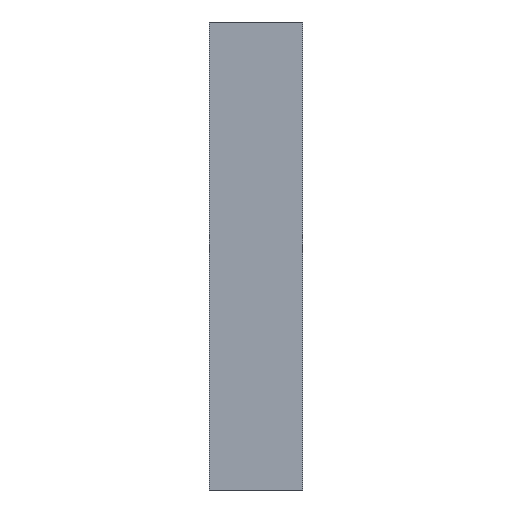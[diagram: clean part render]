
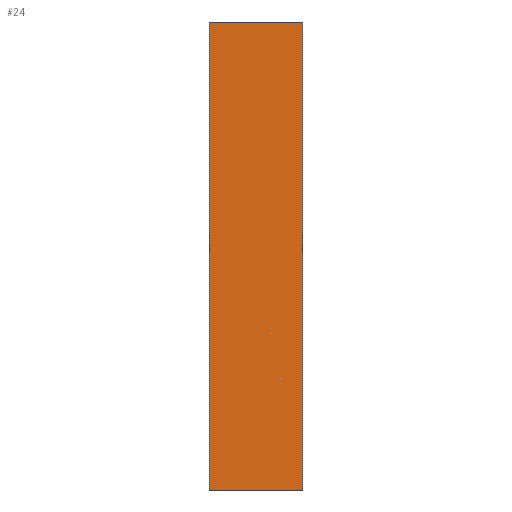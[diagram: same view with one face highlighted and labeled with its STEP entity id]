
A CAD part, front view. The second image highlights one B-rep face of the part: STEP entity #24.
In plain terms, the highlighted planar face has unit normal (0, -1, 0).
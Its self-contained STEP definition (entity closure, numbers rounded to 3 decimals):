
#24 = ADVANCED_FACE ( 'NONE', ( #1300 ), #1866, .F. ) ;
#77 = EDGE_CURVE ( 'NONE', #1071, #884, #923, .T. ) ;
#207 = LINE ( 'NONE', #788, #605 ) ;
#227 = CARTESIAN_POINT ( 'NONE',  ( -300., 0., 1500. ) ) ;
#315 = ORIENTED_EDGE ( 'NONE', *, *, #77, .T. ) ;
#335 = DIRECTION ( 'NONE',  ( 0., 0., -1. ) ) ;
#346 = LINE ( 'NONE', #2050, #1852 ) ;
#530 = CARTESIAN_POINT ( 'NONE',  ( 300., 0., 1500. ) ) ;
#605 = VECTOR ( 'NONE', #977, 1000. ) ;
#690 = CARTESIAN_POINT ( 'NONE',  ( 300., 0., -1500. ) ) ;
#737 = CARTESIAN_POINT ( 'NONE',  ( -300., 0., 1500. ) ) ;
#748 = DIRECTION ( 'NONE',  ( -1., 0., 0. ) ) ;
#788 = CARTESIAN_POINT ( 'NONE',  ( -300., 0., 1500. ) ) ;
#884 = VERTEX_POINT ( 'NONE', #2133 ) ;
#902 = AXIS2_PLACEMENT_3D ( 'NONE', #947, #1708, #748 ) ;
#909 = CARTESIAN_POINT ( 'NONE',  ( 300., 0., 1500. ) ) ;
#923 = LINE ( 'NONE', #737, #1981 ) ;
#943 = LINE ( 'NONE', #530, #2013 ) ;
#947 = CARTESIAN_POINT ( 'NONE',  ( -300., 0., 1500. ) ) ;
#977 = DIRECTION ( 'NONE',  ( 1., 0., 0. ) ) ;
#1071 = VERTEX_POINT ( 'NONE', #227 ) ;
#1096 = DIRECTION ( 'NONE',  ( 1., 0., 0. ) ) ;
#1292 = ORIENTED_EDGE ( 'NONE', *, *, #2175, .F. ) ;
#1300 = FACE_OUTER_BOUND ( 'NONE', #2058, .T. ) ;
#1499 = DIRECTION ( 'NONE',  ( 0., 0., -1. ) ) ;
#1708 = DIRECTION ( 'NONE',  ( 0., 1., 0. ) ) ;
#1852 = VECTOR ( 'NONE', #1096, 1000. ) ;
#1866 = PLANE ( 'NONE',  #902 ) ;
#1893 = EDGE_CURVE ( 'NONE', #1071, #2121, #207, .T. ) ;
#1981 = VECTOR ( 'NONE', #1499, 1000. ) ;
#2013 = VECTOR ( 'NONE', #335, 1000. ) ;
#2014 = ORIENTED_EDGE ( 'NONE', *, *, #1893, .F. ) ;
#2050 = CARTESIAN_POINT ( 'NONE',  ( -300., 0., -1500. ) ) ;
#2058 = EDGE_LOOP ( 'NONE', ( #2307, #1292, #2014, #315 ) ) ;
#2121 = VERTEX_POINT ( 'NONE', #909 ) ;
#2133 = CARTESIAN_POINT ( 'NONE',  ( -300., 0., -1500. ) ) ;
#2151 = EDGE_CURVE ( 'NONE', #884, #2482, #346, .T. ) ;
#2175 = EDGE_CURVE ( 'NONE', #2121, #2482, #943, .T. ) ;
#2307 = ORIENTED_EDGE ( 'NONE', *, *, #2151, .T. ) ;
#2482 = VERTEX_POINT ( 'NONE', #690 ) ;
